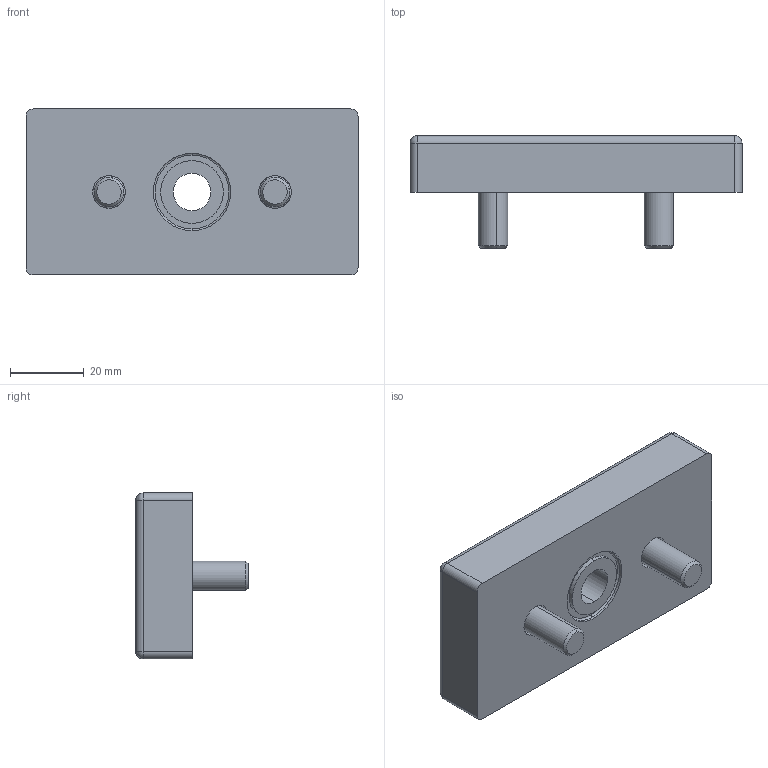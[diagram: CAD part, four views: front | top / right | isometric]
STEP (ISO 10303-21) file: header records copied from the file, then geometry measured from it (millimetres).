
FILE_DESCRIPTION (( 'STEP AP214' ), '1' );
FILE_NAME ('1.5008 kierrelevy 45x90 M12.STEP', '2024-01-19T06:22:54', ( '' ), ( '' ), 'SwSTEP 2.0', 'SolidWorks 2024', '' );
FILE_SCHEMA (( 'AUTOMOTIVE_DESIGN' ));
Length unit declared in the file: millimetre
Products named in the file (1): 1.5008 kierrelevy 45x90 M12
Bounding box: 90 x 30.5 x 45 mm (x, y, z)
Volume: 60862.4 mm3; surface area: 15461 mm2
Topology: 3 solids, 3 shells, 94 faces, 206 edges, 118 vertices
Faces by surface type: plane 40, cylinder 30, cone 10, torus 10, sphere 4
Entity records: 3591 total; most frequent: DIRECTION 486, CARTESIAN_POINT 411, ORIENTED_EDGE 396, EDGE_CURVE 198, AXIS2_PLACEMENT_3D 193, VERTEX_POINT 118, EDGE_LOOP 108, LINE 100
